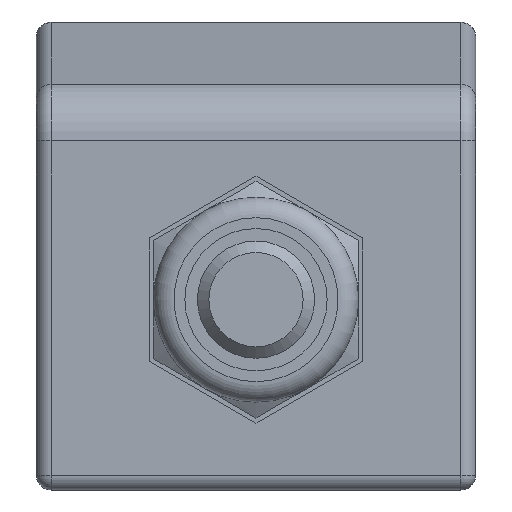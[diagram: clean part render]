
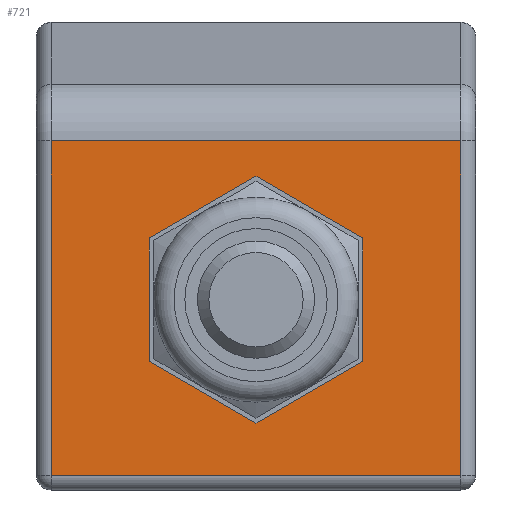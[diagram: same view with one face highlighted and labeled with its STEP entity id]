
A CAD part, left-side view. The second image highlights one B-rep face of the part: STEP entity #721.
In plain terms, the highlighted planar face has unit normal (-1, 0, 0).
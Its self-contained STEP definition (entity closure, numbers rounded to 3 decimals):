
#69 = EDGE_LOOP ( 'NONE', ( #1542, #1997, #1443, #839 ) ) ;
#77 = DIRECTION ( 'NONE',  ( 0., -0.5, 0.866 ) ) ;
#134 = CARTESIAN_POINT ( 'NONE',  ( -9.5, 0., 7. ) ) ;
#153 = LINE ( 'NONE', #2021, #2472 ) ;
#187 = PLANE ( 'NONE',  #1736 ) ;
#198 = VECTOR ( 'NONE', #470, 1000. ) ;
#324 = LINE ( 'NONE', #3008, #1535 ) ;
#349 = CARTESIAN_POINT ( 'NONE',  ( -9.5, 8.607, 3.65 ) ) ;
#375 = EDGE_CURVE ( 'NONE', #2778, #3053, #153, .T. ) ;
#378 = CARTESIAN_POINT ( 'NONE',  ( -9.5, 8.607, 3.65 ) ) ;
#395 = EDGE_CURVE ( 'NONE', #2759, #2347, #2840, .T. ) ;
#440 = CARTESIAN_POINT ( 'NONE',  ( -9.5, 0., 7.5 ) ) ;
#441 = CARTESIAN_POINT ( 'NONE',  ( -9.5, 11.92, -7. ) ) ;
#446 = DIRECTION ( 'NONE',  ( 0., -1., 0. ) ) ;
#470 = DIRECTION ( 'NONE',  ( 0., -0.5, -0.866 ) ) ;
#486 = CARTESIAN_POINT ( 'NONE',  ( -9.5, 11.92, 7.5 ) ) ;
#546 = VERTEX_POINT ( 'NONE', #1725 ) ;
#568 = CARTESIAN_POINT ( 'NONE',  ( -9.5, 4.393, -3.65 ) ) ;
#721 = ADVANCED_FACE ( 'NONE', ( #973, #1960 ), #187, .F. ) ;
#764 = EDGE_CURVE ( 'NONE', #2347, #2922, #955, .T. ) ;
#777 = EDGE_CURVE ( 'NONE', #888, #1068, #2684, .T. ) ;
#822 = DIRECTION ( 'NONE',  ( 0., 0., 1. ) ) ;
#839 = ORIENTED_EDGE ( 'NONE', *, *, #395, .T. ) ;
#888 = VERTEX_POINT ( 'NONE', #1533 ) ;
#893 = ORIENTED_EDGE ( 'NONE', *, *, #1962, .F. ) ;
#906 = EDGE_CURVE ( 'NONE', #2922, #2461, #324, .T. ) ;
#911 = CARTESIAN_POINT ( 'NONE',  ( -9.5, 8.607, -3.65 ) ) ;
#955 = LINE ( 'NONE', #486, #2979 ) ;
#973 = FACE_OUTER_BOUND ( 'NONE', #69, .T. ) ;
#979 = ORIENTED_EDGE ( 'NONE', *, *, #1460, .F. ) ;
#1005 = DIRECTION ( 'NONE',  ( 0., -1., 0. ) ) ;
#1006 = CARTESIAN_POINT ( 'NONE',  ( -9.5, 4.393, -3.65 ) ) ;
#1020 = LINE ( 'NONE', #2550, #2031 ) ;
#1025 = ORIENTED_EDGE ( 'NONE', *, *, #1636, .F. ) ;
#1068 = VERTEX_POINT ( 'NONE', #1849 ) ;
#1330 = ORIENTED_EDGE ( 'NONE', *, *, #375, .F. ) ;
#1420 = DIRECTION ( 'NONE',  ( 0., 0., -1. ) ) ;
#1443 = ORIENTED_EDGE ( 'NONE', *, *, #2012, .T. ) ;
#1460 = EDGE_CURVE ( 'NONE', #1068, #2156, #2920, .T. ) ;
#1469 = VECTOR ( 'NONE', #3078, 1000. ) ;
#1508 = EDGE_LOOP ( 'NONE', ( #1815, #2176, #1330, #1025, #893, #979 ) ) ;
#1533 = CARTESIAN_POINT ( 'NONE',  ( -9.5, 10.715, 0. ) ) ;
#1535 = VECTOR ( 'NONE', #1005, 1000. ) ;
#1542 = ORIENTED_EDGE ( 'NONE', *, *, #764, .T. ) ;
#1632 = LINE ( 'NONE', #2406, #1680 ) ;
#1636 = EDGE_CURVE ( 'NONE', #546, #2778, #1632, .T. ) ;
#1680 = VECTOR ( 'NONE', #2134, 1000. ) ;
#1725 = CARTESIAN_POINT ( 'NONE',  ( -9.5, 2.285, 0. ) ) ;
#1736 = AXIS2_PLACEMENT_3D ( 'NONE', #440, #2404, #1420 ) ;
#1815 = ORIENTED_EDGE ( 'NONE', *, *, #777, .F. ) ;
#1835 = VECTOR ( 'NONE', #77, 1000. ) ;
#1849 = CARTESIAN_POINT ( 'NONE',  ( -9.5, 8.607, -3.65 ) ) ;
#1863 = CARTESIAN_POINT ( 'NONE',  ( -9.5, 4.393, 3.65 ) ) ;
#1942 = DIRECTION ( 'NONE',  ( 0., 0., -1. ) ) ;
#1960 = FACE_BOUND ( 'NONE', #1508, .T. ) ;
#1962 = EDGE_CURVE ( 'NONE', #2156, #546, #2260, .T. ) ;
#1997 = ORIENTED_EDGE ( 'NONE', *, *, #906, .T. ) ;
#2012 = EDGE_CURVE ( 'NONE', #2461, #2759, #1020, .T. ) ;
#2021 = CARTESIAN_POINT ( 'NONE',  ( -9.5, 4.393, 3.65 ) ) ;
#2031 = VECTOR ( 'NONE', #822, 1000. ) ;
#2070 = LINE ( 'NONE', #378, #1469 ) ;
#2134 = DIRECTION ( 'NONE',  ( 0., 0.5, 0.866 ) ) ;
#2156 = VERTEX_POINT ( 'NONE', #1006 ) ;
#2176 = ORIENTED_EDGE ( 'NONE', *, *, #2946, .F. ) ;
#2260 = LINE ( 'NONE', #568, #1835 ) ;
#2347 = VERTEX_POINT ( 'NONE', #2797 ) ;
#2352 = DIRECTION ( 'NONE',  ( 0., 1., 0. ) ) ;
#2386 = CARTESIAN_POINT ( 'NONE',  ( -9.5, 0.5, -7. ) ) ;
#2404 = DIRECTION ( 'NONE',  ( 1., 0., 0. ) ) ;
#2406 = CARTESIAN_POINT ( 'NONE',  ( -9.5, 2.285, 0. ) ) ;
#2461 = VERTEX_POINT ( 'NONE', #2386 ) ;
#2472 = VECTOR ( 'NONE', #2627, 1000. ) ;
#2550 = CARTESIAN_POINT ( 'NONE',  ( -9.5, 0.5, 7.5 ) ) ;
#2624 = CARTESIAN_POINT ( 'NONE',  ( -9.5, 0.5, 7. ) ) ;
#2627 = DIRECTION ( 'NONE',  ( 0., 1., 0. ) ) ;
#2650 = VECTOR ( 'NONE', #446, 1000. ) ;
#2684 = LINE ( 'NONE', #3144, #198 ) ;
#2759 = VERTEX_POINT ( 'NONE', #2624 ) ;
#2778 = VERTEX_POINT ( 'NONE', #1863 ) ;
#2797 = CARTESIAN_POINT ( 'NONE',  ( -9.5, 11.92, 7. ) ) ;
#2840 = LINE ( 'NONE', #134, #2945 ) ;
#2920 = LINE ( 'NONE', #911, #2650 ) ;
#2922 = VERTEX_POINT ( 'NONE', #441 ) ;
#2945 = VECTOR ( 'NONE', #2352, 1000. ) ;
#2946 = EDGE_CURVE ( 'NONE', #3053, #888, #2070, .T. ) ;
#2979 = VECTOR ( 'NONE', #1942, 1000. ) ;
#3008 = CARTESIAN_POINT ( 'NONE',  ( -9.5, 0., -7. ) ) ;
#3053 = VERTEX_POINT ( 'NONE', #349 ) ;
#3078 = DIRECTION ( 'NONE',  ( 0., 0.5, -0.866 ) ) ;
#3144 = CARTESIAN_POINT ( 'NONE',  ( -9.5, 10.715, 0. ) ) ;
